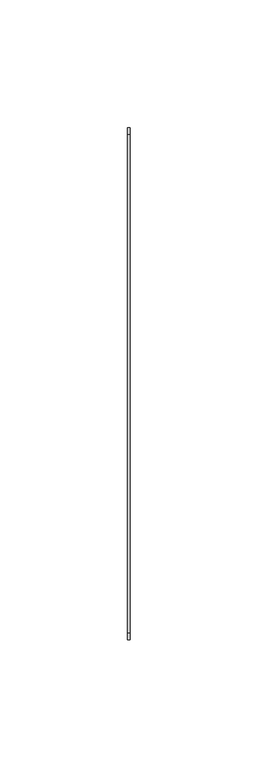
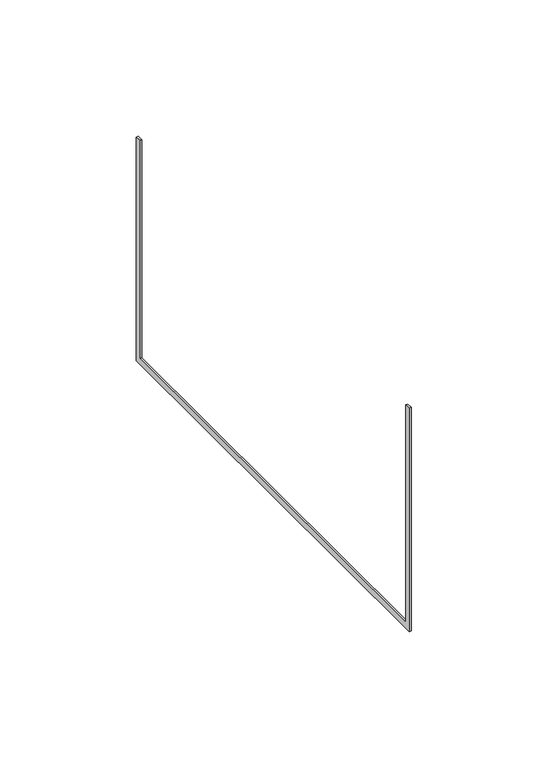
"""IFC4 building model written with IfcOpenShell, lengths in millimetres: cable carrier fitting geometry, JUER_Junction-Basortray : Basortray JUER-GS."""

from ifc_helpers import new_model, si_unit, frame, origin, place, context, project, spatial, polyline, outline, extrude, source, transform, mapped, element, save


def cable_carrier_fitting_66a21cff(model_context):
    return source(origin(), model_context, "Body", "SweptSolid", [
        extrude(outline(polyline([(-100.0, -50.0), (-100.0, 50.0), (-97.46, 50.0), (-97.46, -47.46), (97.46, -47.46), (97.46, 50.0), (100.0, 50.0), (100.0, -50.0), (-100.0, -50.0)])), frame((0.0, 0.0, 0.0), z_axis=(1.0, 0.0, 0.0), x_axis=(0.0, 1.0, 0.0)), (0.0, 0.0, 1.0), 0.8),
    ])


if __name__ == "__main__":
    model = new_model("IFC4")
    model_context = context("Model", 3, world=origin())
    ifc_project = project(units=[si_unit("LENGTHUNIT", "METRE", prefix="MILLI")], contexts=[model_context])
    site = spatial("IfcSite", under=ifc_project)
    building = spatial("IfcBuilding", under=site)
    placement = place(None, origin())
    cable_carrier_fitting_shape = cable_carrier_fitting_66a21cff(model_context)
    element("IfcCableCarrierFitting", 1, ObjectType="JUER_Junction-Basortray : Basortray JUER-GS", at=placement, inside=building, context=model_context, shape_type="MappedRepresentation", body=[
        mapped(cable_carrier_fitting_shape, transform((0.0, 0.0, 0.0), x_axis=(1.0, 0.0, 0.0), y_axis=(0.0, 1.0, 0.0), z_axis=(0.0, 0.0, 1.0))),
    ])
    save(model, "model.ifc")
